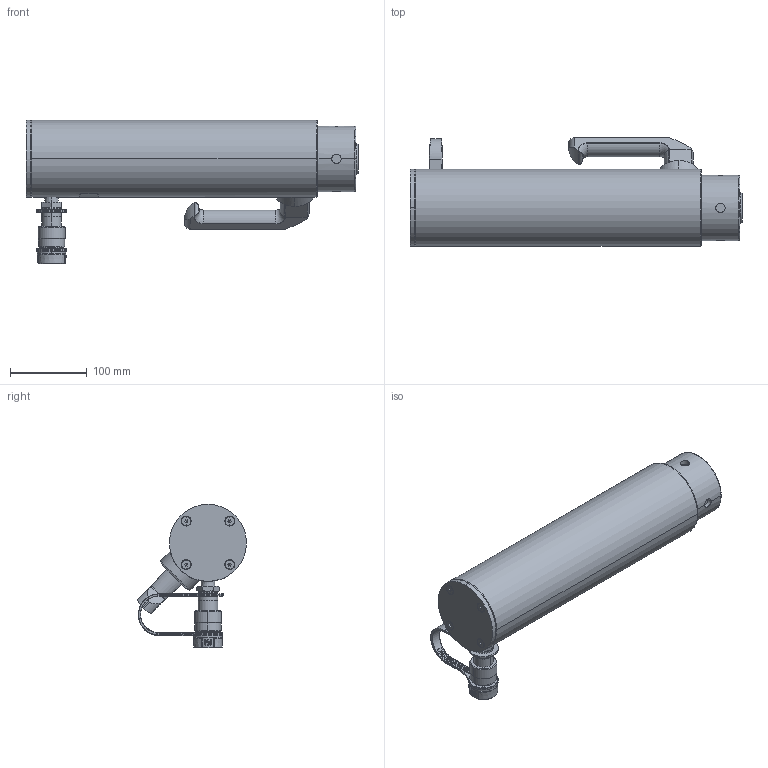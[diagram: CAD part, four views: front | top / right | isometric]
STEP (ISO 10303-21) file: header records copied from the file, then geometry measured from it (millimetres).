
FILE_DESCRIPTION((''),'2;1');
FILE_NAME('RACL3010_SW0001','2023-05-31T08:25:20',('alvaro.garcia'),(''),'CREO PARAMETRIC BY PTC INC, 2020454','CREO PARAMETRIC BY PTC INC, 2020454','');
FILE_SCHEMA(('CONFIG_CONTROL_DESIGN'));
Length unit declared in the file: millimetre
Products named in the file (1): RACL3010_SW0001
Bounding box: 431.2 x 141.47 x 186.16 mm (x, y, z)
Volume: 2621436.6 mm3; surface area: 398805.6 mm2
Topology: 1 solids, 1 shells, 997 faces, 2418 edges, 1503 vertices
Faces by surface type: plane 456, cylinder 201, cone 150, torus 98, extrusion 68, bspline 24
Entity records: 39107 total; most frequent: CARTESIAN_POINT 16154, ORIENTED_EDGE 4800, DIRECTION 4615, EDGE_CURVE 2400, AXIS2_PLACEMENT_3D 1672, VERTEX_POINT 1503, VECTOR 1271, LINE 1203
